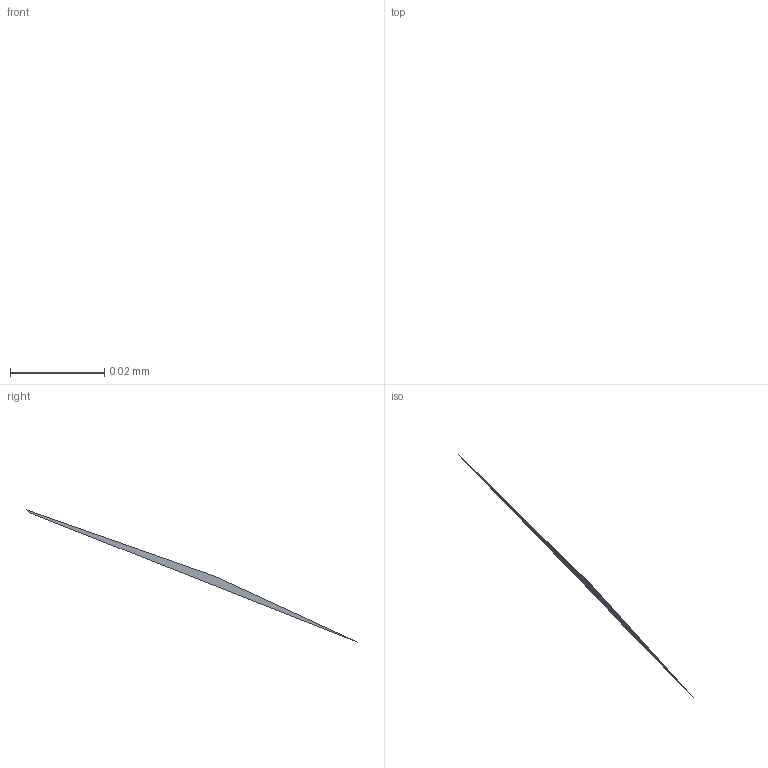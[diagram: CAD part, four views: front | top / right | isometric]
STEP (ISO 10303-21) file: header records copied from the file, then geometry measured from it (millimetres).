
FILE_DESCRIPTION(/* description */ ('STEP AP242 Edition 2','CAx-IF Rec.Pracs.---Representation and Presentation of Product Manufacturing Information (PMI)---4.0---2014-10-13','CAx-IF Rec.Pracs.---3D Tessellated Geometry---0.4---2014-09-14','2;1','CAx-IF Rec.Pracs.---User Defined Attributes---1.5---2016-08-15'),/* implementation_level */ '2;1');
FILE_NAME(/* name */ 'Assembly 1 - Part 5',/* time_stamp */ '2026-03-29T21:14:57Z',/* author */ (''),/* organization */ (''),/* preprocessor_version */ 'ST-DEVELOPER v20',/* originating_system */ 'ONSHAPE BY PTC INC, 1.212',/* authorisation */ ' ');
FILE_SCHEMA (('AP242_MANAGED_MODEL_BASED_3D_ENGINEERING_MIM_LF { 1 0 10303 442 3 1 4 }'));
Length unit declared in the file: metre
Products named in the file (1): Part 5
Bounding box: 0 x 0.07 x 0.03 mm (x, y, z)
Surface area: 0 mm2 (no closed solid volume)
Topology: 0 solids, 1 shells, 1 faces, 0 edges, 0 vertices
Faces by surface type: other 1
Entity records: 31 total; most frequent: DIRECTION 2, SHAPE_REPRESENTATION_RELATIONSHIP 1, TESSELLATED_SHAPE_REPRESENTATION 1, STYLED_ITEM 1, PRESENTATION_STYLE_ASSIGNMENT 1, SURFACE_STYLE_USAGE 1, SURFACE_SIDE_STYLE 1, SURFACE_STYLE_FILL_AREA 1
